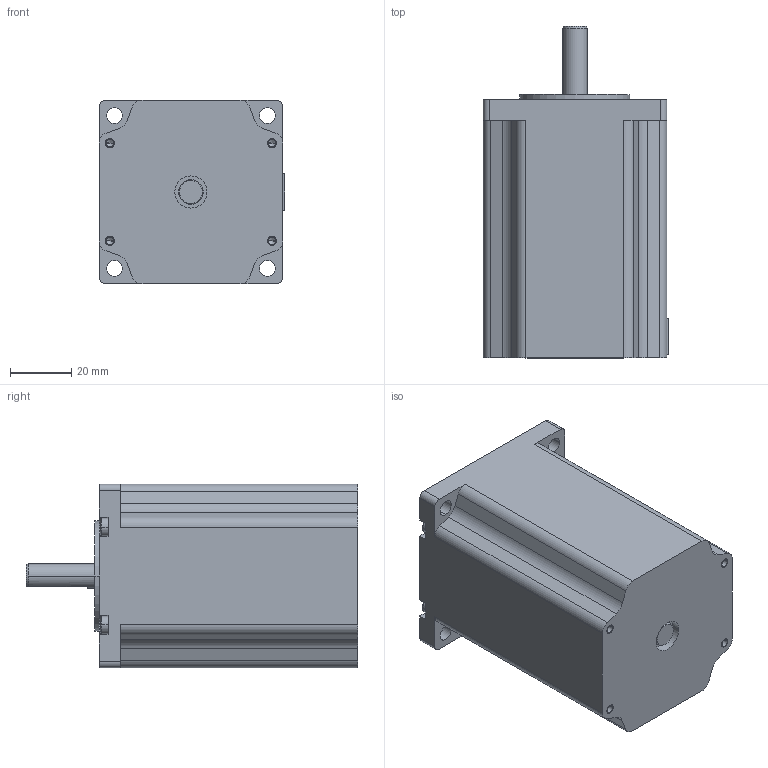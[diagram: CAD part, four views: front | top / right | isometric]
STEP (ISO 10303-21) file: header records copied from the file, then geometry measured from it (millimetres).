
FILE_DESCRIPTION((''),'2;1');
FILE_NAME('AM24HN6524-01','2025-07-07T18:01:00',('CZ28555'),(''),'CREO PARAMETRIC BY PTC INC, 2018100','CREO PARAMETRIC BY PTC INC, 2018100','');
FILE_SCHEMA(('CONFIG_CONTROL_DESIGN'));
Length unit declared in the file: millimetre
Products named in the file (1): AM24HN6524-01
Bounding box: 60.7 x 108.5 x 60 mm (x, y, z)
Volume: 274972.5 mm3; surface area: 27211.3 mm2
Topology: 1 solids, 5 shells, 202 faces, 533 edges, 348 vertices
Faces by surface type: plane 103, cylinder 80, cone 11, torus 8
Entity records: 6287 total; most frequent: DIRECTION 1118, CARTESIAN_POINT 1086, ORIENTED_EDGE 1034, EDGE_CURVE 525, AXIS2_PLACEMENT_3D 392, VERTEX_POINT 348, VECTOR 334, LINE 334
